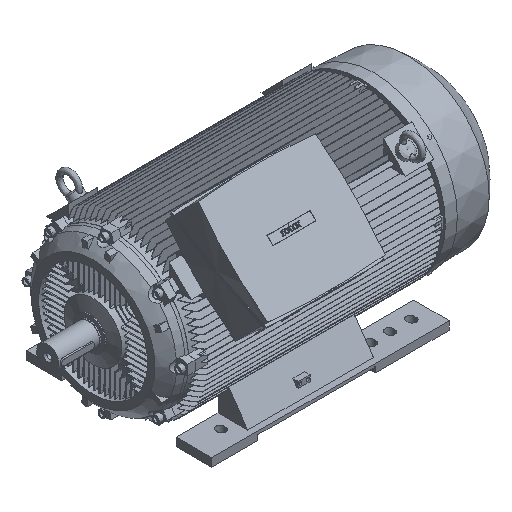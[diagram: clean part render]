
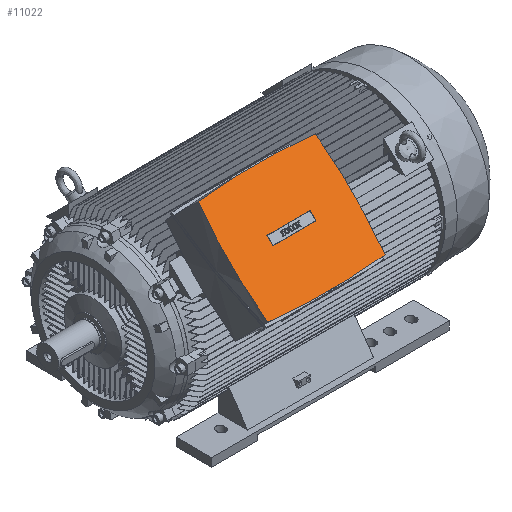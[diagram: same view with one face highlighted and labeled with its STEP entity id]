
A CAD part, isometric view. The second image highlights one B-rep face of the part: STEP entity #11022.
In plain terms, the highlighted planar face has unit normal (0, -0.707, 0.707).
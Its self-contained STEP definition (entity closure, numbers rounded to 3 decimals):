
#2351 = VECTOR ( 'NONE', #47894, 1000. ) ;
#2706 = VERTEX_POINT ( 'NONE', #59777 ) ;
#3684 = CARTESIAN_POINT ( 'NONE',  ( 170., -473.054, 456.084 ) ) ;
#3950 = VERTEX_POINT ( 'NONE', #28123 ) ;
#4744 = VERTEX_POINT ( 'NONE', #34004 ) ;
#6389 = DIRECTION ( 'NONE',  ( 0., 0.707, 0.707 ) ) ;
#6506 = AXIS2_PLACEMENT_3D ( 'NONE', #11490, #64076, #19107 ) ;
#8004 = CARTESIAN_POINT ( 'NONE',  ( 506.215, -632.179, 296.96 ) ) ;
#11022 = ADVANCED_FACE ( 'NONE', ( #16111, #14945 ), #26800, .T. ) ;
#11082 = CARTESIAN_POINT ( 'NONE',  ( 350., -485.429, 443.71 ) ) ;
#11490 = CARTESIAN_POINT ( 'NONE',  ( 260., -2599.975, -1670.837 ) ) ;
#12810 = VECTOR ( 'NONE', #14078, 1000. ) ;
#14078 = DIRECTION ( 'NONE',  ( 1., 0., 0. ) ) ;
#14945 = FACE_BOUND ( 'NONE', #85965, .T. ) ;
#15907 = AXIS2_PLACEMENT_3D ( 'NONE', #96377, #51334, #6389 ) ;
#16111 = FACE_OUTER_BOUND ( 'NONE', #88060, .T. ) ;
#16587 = VERTEX_POINT ( 'NONE', #50489 ) ;
#19070 = VERTEX_POINT ( 'NONE', #8004 ) ;
#19107 = DIRECTION ( 'NONE',  ( 0., 0.707, 0.707 ) ) ;
#19595 = DIRECTION ( 'NONE',  ( 0., -0.707, 0.707 ) ) ;
#22341 = LINE ( 'NONE', #54561, #2351 ) ;
#22364 = ORIENTED_EDGE ( 'NONE', *, *, #68628, .T. ) ;
#23283 = ORIENTED_EDGE ( 'NONE', *, *, #67796, .T. ) ;
#25958 = AXIS2_PLACEMENT_3D ( 'NONE', #29361, #81942, #36970 ) ;
#26800 = PLANE ( 'NONE',  #28853 ) ;
#27369 = ORIENTED_EDGE ( 'NONE', *, *, #67762, .T. ) ;
#28123 = CARTESIAN_POINT ( 'NONE',  ( 13.785, -632.179, 296.96 ) ) ;
#28853 = AXIS2_PLACEMENT_3D ( 'NONE', #64591, #19595, #72151 ) ;
#29112 = CARTESIAN_POINT ( 'NONE',  ( 1916.5, -485.429, 443.71 ) ) ;
#29361 = CARTESIAN_POINT ( 'NONE',  ( -1396.5, -485.429, 443.71 ) ) ;
#29651 = ORIENTED_EDGE ( 'NONE', *, *, #66500, .T. ) ;
#30341 = VERTEX_POINT ( 'NONE', #86521 ) ;
#32657 = AXIS2_PLACEMENT_3D ( 'NONE', #29112, #81664, #36689 ) ;
#32695 = VECTOR ( 'NONE', #71209, 1000. ) ;
#34004 = CARTESIAN_POINT ( 'NONE',  ( 350., -497.803, 431.335 ) ) ;
#36373 = ORIENTED_EDGE ( 'NONE', *, *, #66619, .T. ) ;
#36689 = DIRECTION ( 'NONE',  ( 0., 0.707, 0.707 ) ) ;
#36970 = DIRECTION ( 'NONE',  ( 0., 0.707, 0.707 ) ) ;
#44646 = LINE ( 'NONE', #57598, #82287 ) ;
#46586 = ORIENTED_EDGE ( 'NONE', *, *, #65484, .T. ) ;
#46717 = CARTESIAN_POINT ( 'NONE',  ( 506.215, -338.679, 590.459 ) ) ;
#47360 = ORIENTED_EDGE ( 'NONE', *, *, #66211, .T. ) ;
#47894 = DIRECTION ( 'NONE',  ( 0., 0.707, 0.707 ) ) ;
#50489 = CARTESIAN_POINT ( 'NONE',  ( 170., -497.803, 431.335 ) ) ;
#50492 = VERTEX_POINT ( 'NONE', #46717 ) ;
#51334 = DIRECTION ( 'NONE',  ( 0., -0.707, 0.707 ) ) ;
#53632 = CIRCLE ( 'NONE', #6506, 3207.42 ) ;
#54561 = CARTESIAN_POINT ( 'NONE',  ( 170., -485.429, 443.71 ) ) ;
#55171 = CIRCLE ( 'NONE', #15907, 3207.42 ) ;
#57598 = CARTESIAN_POINT ( 'NONE',  ( 260., -497.803, 431.335 ) ) ;
#59777 = CARTESIAN_POINT ( 'NONE',  ( 350., -473.054, 456.084 ) ) ;
#60661 = ORIENTED_EDGE ( 'NONE', *, *, #65920, .T. ) ;
#61762 = VERTEX_POINT ( 'NONE', #3684 ) ;
#64076 = DIRECTION ( 'NONE',  ( 0., -0.707, 0.707 ) ) ;
#64591 = CARTESIAN_POINT ( 'NONE',  ( 260., -485.429, 443.71 ) ) ;
#65172 = DIRECTION ( 'NONE',  ( -1., 0., 0. ) ) ;
#65484 = EDGE_CURVE ( 'NONE', #4744, #16587, #44646, .T. ) ;
#65920 = EDGE_CURVE ( 'NONE', #16587, #61762, #22341, .T. ) ;
#66211 = EDGE_CURVE ( 'NONE', #61762, #2706, #75133, .T. ) ;
#66500 = EDGE_CURVE ( 'NONE', #2706, #4744, #72720, .T. ) ;
#66619 = EDGE_CURVE ( 'NONE', #30341, #3950, #84422, .T. ) ;
#66659 = CARTESIAN_POINT ( 'NONE',  ( 260., -473.054, 456.084 ) ) ;
#67762 = EDGE_CURVE ( 'NONE', #3950, #19070, #55171, .T. ) ;
#67796 = EDGE_CURVE ( 'NONE', #19070, #50492, #95153, .T. ) ;
#68628 = EDGE_CURVE ( 'NONE', #50492, #30341, #53632, .T. ) ;
#71209 = DIRECTION ( 'NONE',  ( 0., -0.707, -0.707 ) ) ;
#72151 = DIRECTION ( 'NONE',  ( 0., -0.707, -0.707 ) ) ;
#72720 = LINE ( 'NONE', #11082, #32695 ) ;
#75133 = LINE ( 'NONE', #66659, #12810 ) ;
#81664 = DIRECTION ( 'NONE',  ( 0., -0.707, 0.707 ) ) ;
#81942 = DIRECTION ( 'NONE',  ( 0., -0.707, 0.707 ) ) ;
#82287 = VECTOR ( 'NONE', #65172, 1000. ) ;
#84422 = CIRCLE ( 'NONE', #32657, 1914. ) ;
#85965 = EDGE_LOOP ( 'NONE', ( #47360, #29651, #46586, #60661 ) ) ;
#86521 = CARTESIAN_POINT ( 'NONE',  ( 13.785, -338.679, 590.459 ) ) ;
#88060 = EDGE_LOOP ( 'NONE', ( #22364, #36373, #27369, #23283 ) ) ;
#95153 = CIRCLE ( 'NONE', #25958, 1914. ) ;
#96377 = CARTESIAN_POINT ( 'NONE',  ( 260., 1629.117, 2558.256 ) ) ;
